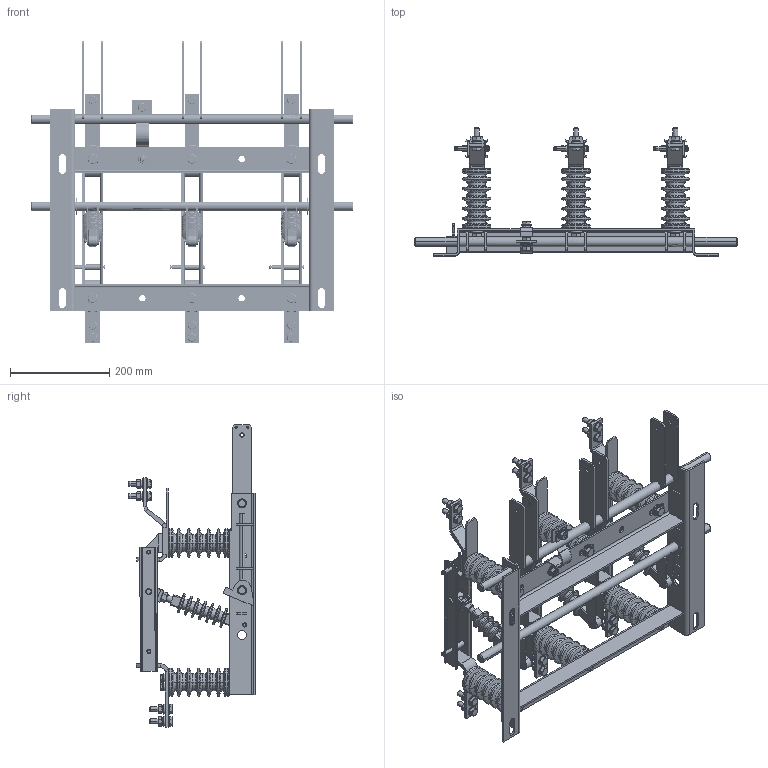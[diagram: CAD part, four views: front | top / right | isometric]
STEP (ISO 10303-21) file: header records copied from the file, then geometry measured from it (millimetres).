
FILE_DESCRIPTION (( 'STEP AP214' ), '1' );
FILE_NAME ('Ðàçúåäèíèòåëü âûñîêîâîëüòíûé ÐÂÇ-10400-II-È2-Ó3-ÊÝÀÇ.STEP', '2023-02-03T10:42:49', ( '' ), ( '' ), 'SwSTEP 2.0', 'SolidWorks 2018', '' );
FILE_SCHEMA (( 'AUTOMOTIVE_DESIGN' ));
Length unit declared in the file: millimetre
Products named in the file (1): Ðàçúåäèíèòåëü âûñîêîâîëüòíûé ÐÂÇ-10400-II-È2-Ó3-ÊÝÀÇ
Bounding box: 650 x 257.23 x 609.5 mm (x, y, z)
Volume: 3366631.6 mm3; surface area: 1124828.6 mm2
Topology: 1 solids, 25 shells, 3088 faces, 7325 edges, 4479 vertices
Faces by surface type: plane 1390, cylinder 953, cone 469, torus 276
Full cylindrical faces by diameter (mm): 9.197 x3, 9.288 x1, 10.157 x4, 10.603 x2, 10.8 x12, 10.827 x3, 12.35 x12, 13 x3, 13.278 x3, 14.398 x3, 14.444 x3, 15.2 x6, 16 x6, 18.448 x4, 19.991 x1, 20 x12
Entity records: 108515 total; most frequent: CARTESIAN_POINT 38295, DIRECTION 14902, ORIENTED_EDGE 14300, EDGE_CURVE 7150, AXIS2_PLACEMENT_3D 5877, VERTEX_POINT 4398, EDGE_LOOP 3560, FACE_OUTER_BOUND 3166
